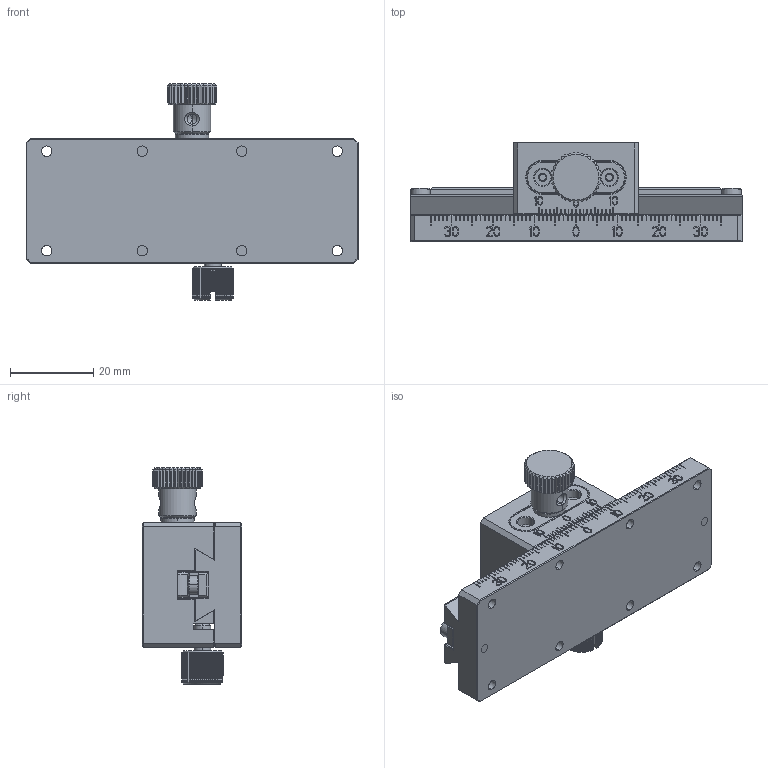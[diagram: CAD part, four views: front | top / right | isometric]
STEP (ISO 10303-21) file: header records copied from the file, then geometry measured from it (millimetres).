
FILE_DESCRIPTION((''),'2;1');
FILE_NAME('ASSY-30-ST60_ASM','2021-12-23T21:10:25',('windows10'),(''),'CREO PARAMETRIC BY PTC INC, 2018260','CREO PARAMETRIC BY PTC INC, 2018260','');
FILE_SCHEMA(('CONFIG_CONTROL_DESIGN'));
Length unit declared in the file: millimetre
Products named in the file (12): BOTTOM-30-80-M; RACK-6-5-80; 2D5-6; TOP-30-30-F; PINION-4-25; HOLDER-PINION-3; WASHER-8-4-1D4; HANDLE-12-12; ASSY-HANDLE-12-28D2_ASM; ASSY-TOP-30-30-F_ASM; STOPPER-10-M4-14D5; ASSY-30-ST60_ASM
Assembly tree (12 placements, depth 4):
  ASSY-30-ST60_ASM
    BOTTOM-30-80-M
    RACK-6-5-80
    2D5-6  x2
    ASSY-TOP-30-30-F_ASM
      TOP-30-30-F
      ASSY-HANDLE-12-28D2_ASM
        PINION-4-25
        HOLDER-PINION-3
        WASHER-8-4-1D4
        HANDLE-12-12
    STOPPER-10-M4-14D5
Bounding box: 80 x 24 x 52.09 mm (x, y, z)
Volume: 35021.4 mm3; surface area: 18774.8 mm2
Topology: 10 solids, 10 shells, 1752 faces, 4873 edges, 3192 vertices
Faces by surface type: plane 1420, cylinder 222, cone 106, bspline 4
Entity records: 56411 total; most frequent: CARTESIAN_POINT 11959, ORIENTED_EDGE 9646, DIRECTION 8459, EDGE_CURVE 4823, VECTOR 3895, LINE 3895, VERTEX_POINT 3166, AXIS2_PLACEMENT_3D 2282
